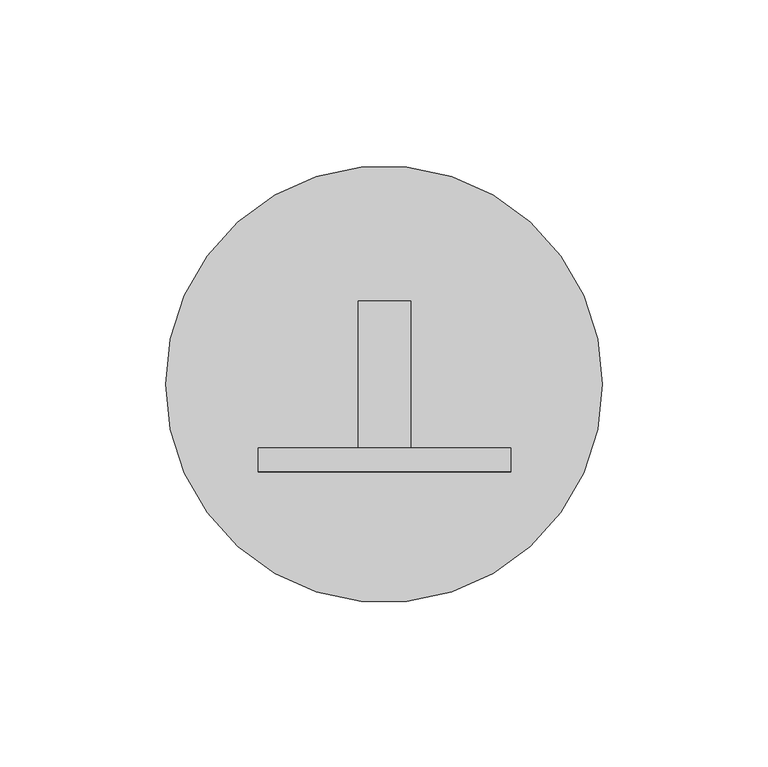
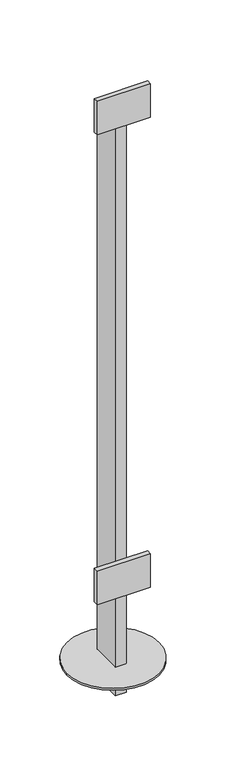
"""IFC4 building model written with IfcOpenShell, lengths in millimetres: proxy geometry, Baluster-End-Post-VIVA-STRUC-Top Mount : CORED INTO CONCRETE_TOP MOUNT STRUC_STRAIGHT."""

from ifc_helpers import new_model, si_unit, point, frame, frame_2d, origin, place, context, project, spatial, polyline, circle_curve, trimmed, segment, composite_curve, outline, extrude, source, transform, mapped, element, save


def building_element_proxy_bc1e0d3e(model_context):
    return source(origin(), model_context, "Body", "SweptSolid", [
        extrude(outline(polyline([(-58.9780808, -123.8478567), (-135.1795192, -123.8478567), (-135.1795192, -116.7358567), (-58.9780808, -116.7358567), (-58.9780808, -123.8478567)])), frame((0.0, 0.0, 824.3906928), z_axis=(0.0, 0.0, 1.0), x_axis=(1.0, 0.0, 0.0)), (0.0, 0.0, 1.0), 50.8),
        extrude(outline(polyline([(-58.9780808, -123.8478567), (-135.1795192, -123.8478567), (-135.1795192, -116.7358567), (-58.9780808, -116.7358567), (-58.9780808, -123.8478567)])), frame((0.0, 0.0, 113.1906928), z_axis=(0.0, 0.0, 1.0), x_axis=(1.0, 0.0, 0.0)), (0.0, 0.0, 1.0), 50.8),
        extrude(outline(composite_curve([segment(trimmed(circle_curve(frame_2d((-97.19755, -97.3499934)), 66.0), [point((-163.19755, -97.3499934))], [point((-31.19755, -97.3499934))], False, "CARTESIAN"), True, "CONTINUOUS"), segment(trimmed(circle_curve(frame_2d((-97.19755, -97.3499934)), 66.0), [point((-31.19755, -97.3499934))], [point((-163.19755, -97.3499934))], False, "CARTESIAN"), True, "CONTINUOUS")], self_intersect=False)), frame((0.0, 0.0, 0.5143555), z_axis=(0.0, 0.0, 1.0), x_axis=(1.0, 0.0, 0.0)), (0.0, 0.0, 1.0), 3.0),
        extrude(outline(polyline([(-89.1413, -72.2858567), (-89.1413, -116.7358567), (-105.0163, -116.7358567), (-105.0163, -72.2858567), (-89.1413, -72.2858567)])), frame((0.0, 0.0, -39.2093072), z_axis=(0.0, 0.0, 1.0), x_axis=(1.0, 0.0, 0.0)), (0.0, 0.0, 1.0), 870.9831072),
    ])


if __name__ == "__main__":
    model = new_model("IFC4")
    model_context = context("Model", 3, world=origin())
    ifc_project = project(units=[si_unit("LENGTHUNIT", "METRE", prefix="MILLI")], contexts=[model_context])
    site = spatial("IfcSite", under=ifc_project)
    building = spatial("IfcBuilding", under=site)
    placement = place(None, origin())
    building_element_proxy_shape = building_element_proxy_bc1e0d3e(model_context)
    element("IfcBuildingElementProxy", 1, Name="Baluster-End-Post-VIVA-STRUC-Top Mount : CORED INTO CONCRETE_TOP MOUNT STRUC_STRAIGHT", ObjectType="Baluster-End-Post-VIVA-STRUC-Top Mount : CORED INTO CONCRETE_TOP MOUNT STRUC_STRAIGHT", at=placement, inside=building, context=model_context, shape_type="MappedRepresentation", body=[
        mapped(building_element_proxy_shape, transform((0.0, 0.0, 0.0), x_axis=(1.0, 0.0, 0.0), y_axis=(0.0, 1.0, 0.0), z_axis=(0.0, 0.0, 1.0))),
    ])
    save(model, "model.ifc")
